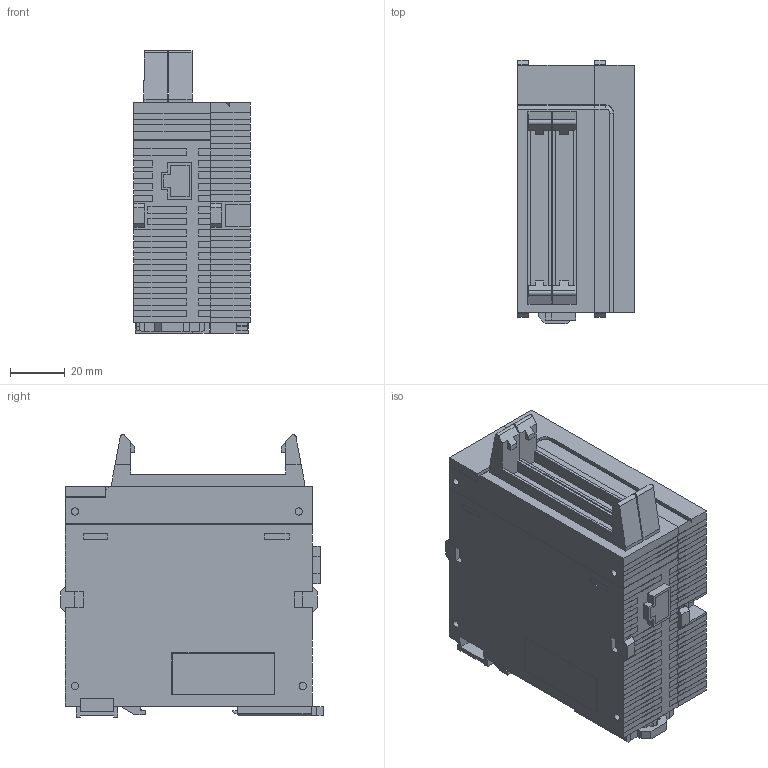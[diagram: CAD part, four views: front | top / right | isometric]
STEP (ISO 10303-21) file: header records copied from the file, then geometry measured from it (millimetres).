
FILE_DESCRIPTION (( 'STEP AP203' ), '1' );
FILE_NAME ('afp7exps.STEP', '2014-06-23T00:16:49', ( '' ), ( '' ), 'SwSTEP 2.0', 'SolidWorks 2010', '' );
FILE_SCHEMA (( 'CONFIG_CONTROL_DESIGN' ));
Length unit declared in the file: millimetre
Products named in the file (4): afp7exps_EXPS; afp7cps4e_endunit; afp7cps4e_connectorcover; afp7exps
Assembly tree (3 placements, depth 2):
  afp7exps
    afp7cps4e_endunit
    afp7exps_EXPS
    afp7cps4e_connectorcover
Bounding box: 42.5 x 95.75 x 103 mm (x, y, z)
Volume: 233936 mm3; surface area: 65592.3 mm2
Topology: 3 solids, 3 shells, 881 faces, 2500 edges, 1660 vertices
Faces by surface type: plane 847, cylinder 33, cone 1
Entity records: 28444 total; most frequent: CARTESIAN_POINT 5047, ORIENTED_EDGE 5000, DIRECTION 4342, EDGE_CURVE 2500, LINE 2432, VECTOR 2432, VERTEX_POINT 1660, AXIS2_PLACEMENT_3D 955
